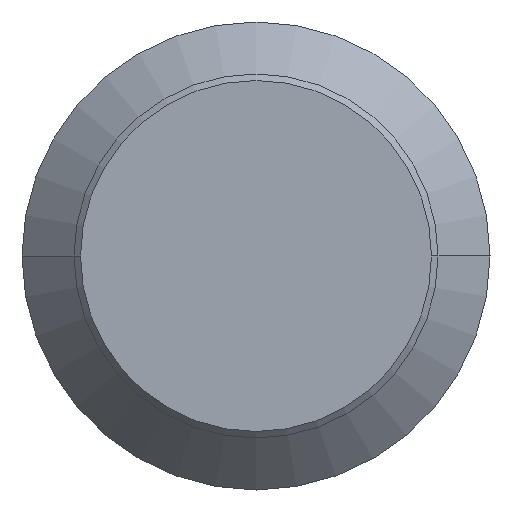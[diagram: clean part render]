
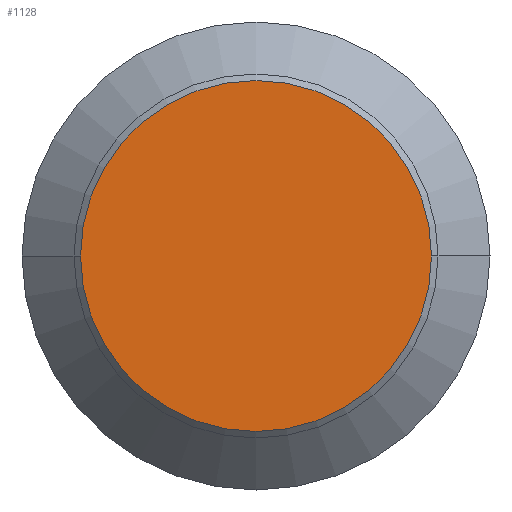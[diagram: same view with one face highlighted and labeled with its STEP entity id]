
A CAD part, left-side view. The second image highlights one B-rep face of the part: STEP entity #1128.
In plain terms, the highlighted planar face has unit normal (-1, 0, 0).
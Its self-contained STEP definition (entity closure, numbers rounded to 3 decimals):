
#19 = FACE_OUTER_BOUND ( 'NONE', #302, .T. ) ;
#79 = DIRECTION ( 'NONE',  ( 0., 1., 0. ) ) ;
#87 = AXIS2_PLACEMENT_3D ( 'NONE', #564, #1250, #953 ) ;
#92 = DIRECTION ( 'NONE',  ( 1., 0., 0. ) ) ;
#96 = CARTESIAN_POINT ( 'NONE',  ( -103.426, 0., 0. ) ) ;
#109 = AXIS2_PLACEMENT_3D ( 'NONE', #1306, #92, #79 ) ;
#144 = ORIENTED_EDGE ( 'NONE', *, *, #279, .F. ) ;
#207 = DIRECTION ( 'NONE',  ( 0., 1., 0. ) ) ;
#251 = PLANE ( 'NONE',  #87 ) ;
#279 = EDGE_CURVE ( 'NONE', #909, #521, #1195, .T. ) ;
#290 = AXIS2_PLACEMENT_3D ( 'NONE', #96, #524, #207 ) ;
#302 = EDGE_LOOP ( 'NONE', ( #888, #144 ) ) ;
#391 = CARTESIAN_POINT ( 'NONE',  ( -103.426, -13.5, 0. ) ) ;
#471 = EDGE_CURVE ( 'NONE', #521, #909, #722, .T. ) ;
#521 = VERTEX_POINT ( 'NONE', #1309 ) ;
#524 = DIRECTION ( 'NONE',  ( 1., 0., 0. ) ) ;
#564 = CARTESIAN_POINT ( 'NONE',  ( -103.426, 0., 0. ) ) ;
#722 = CIRCLE ( 'NONE', #290, 13.5 ) ;
#888 = ORIENTED_EDGE ( 'NONE', *, *, #471, .F. ) ;
#909 = VERTEX_POINT ( 'NONE', #391 ) ;
#953 = DIRECTION ( 'NONE',  ( 0., -1., 0. ) ) ;
#1128 = ADVANCED_FACE ( 'NONE', ( #19 ), #251, .T. ) ;
#1195 = CIRCLE ( 'NONE', #109, 13.5 ) ;
#1250 = DIRECTION ( 'NONE',  ( -1., 0., 0. ) ) ;
#1306 = CARTESIAN_POINT ( 'NONE',  ( -103.426, 0., 0. ) ) ;
#1309 = CARTESIAN_POINT ( 'NONE',  ( -103.426, 13.5, 0. ) ) ;
